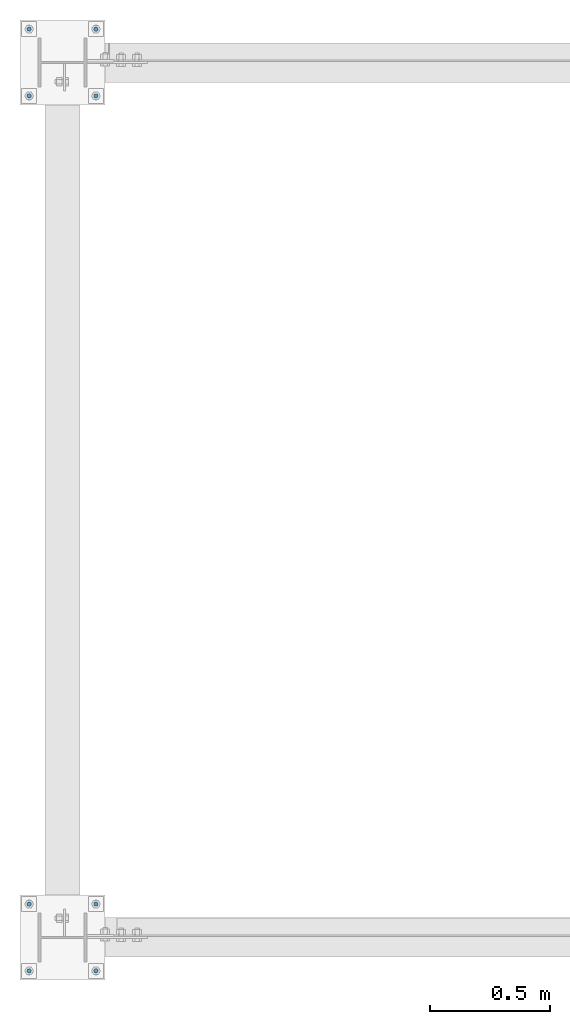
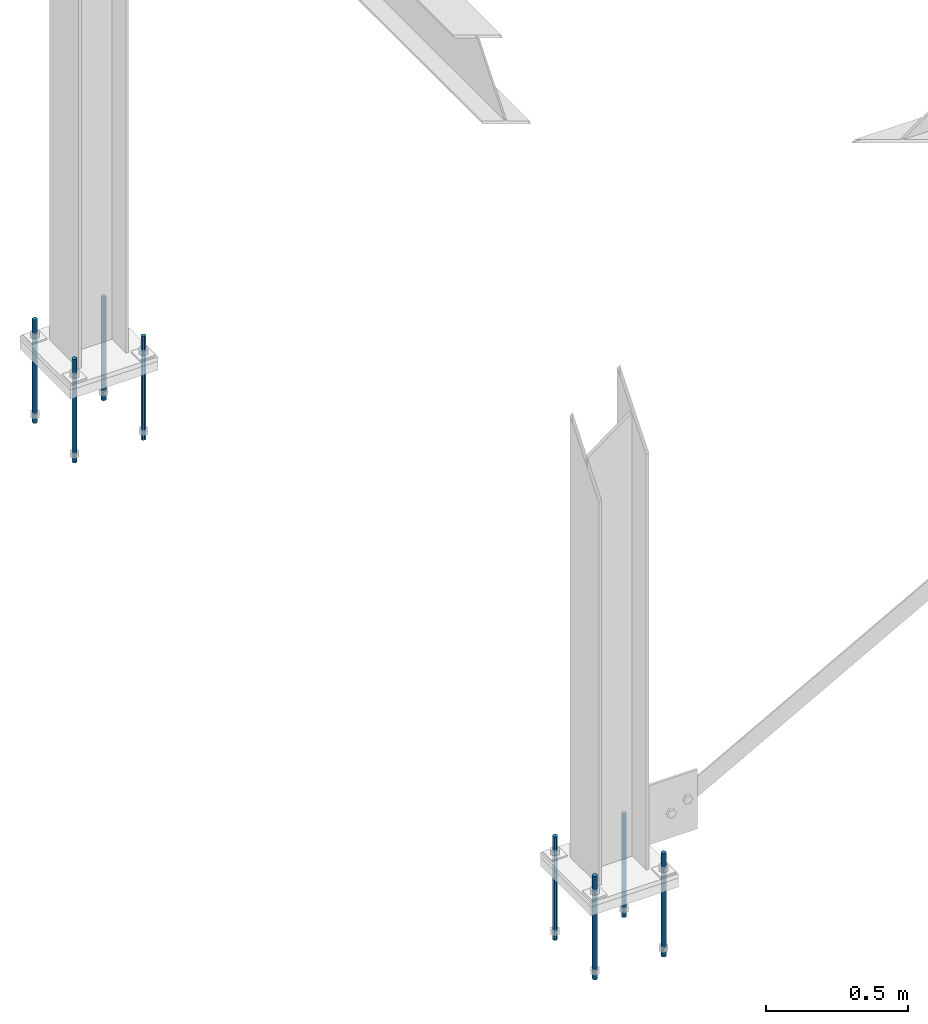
# One storey, part 2 of 5: 8 columns.
"""IFC4 building model written with IfcOpenShell, lengths in millimetres."""

from ifc_helpers import new_model, si_unit, direction, frame, origin_with_axes, place, context, subcontext, project, spatial, line, indexed_curve, outline, extrude, material, element, save


model = new_model("IFC4")

# Units and contexts
model_context = context("Model", 3, precision=0.2, world=origin_with_axes(), true_north=direction((0.0, 1.0)))
body_context = subcontext(model_context, "Body", "Model", "MODEL_VIEW")
ifc_project = project(units=[si_unit("LENGTHUNIT", "METRE", prefix="MILLI"), si_unit("AREAUNIT", "SQUARE_METRE"), si_unit("VOLUMEUNIT", "CUBIC_METRE"), si_unit("MASSUNIT", "GRAM", prefix="KILO"), si_unit("TIMEUNIT", "SECOND"), si_unit("PLANEANGLEUNIT", "RADIAN"), si_unit("SOLIDANGLEUNIT", "STERADIAN"), si_unit("THERMODYNAMICTEMPERATUREUNIT", "DEGREE_CELSIUS"), si_unit("LUMINOUSINTENSITYUNIT", "LUMEN")], contexts=[model_context])

# Site, building, storey
site_placement = place(None, origin_with_axes())
site = spatial("IfcSite", under=ifc_project, at=site_placement, Name="Unknown", CompositionType="ELEMENT")
building_placement = place(site_placement, origin_with_axes())
building = spatial("IfcBuilding", under=site, at=building_placement, Name="Unknown", CompositionType="ELEMENT")
storey_placement = place(building_placement, origin_with_axes())
storey = spatial("IfcBuildingStorey", under=building, at=storey_placement, Name="Unknown", CompositionType="ELEMENT", Elevation=0.0)

# Columns
ifc_material = material(Name="F1554-36", Category="STEEL")
for number, where, z_axis, x_axis, name in (
    (1, (-139.7, -139.7, -304.8), (-1.0, 0.0, 0.0), (0.0, 0.0, 1.0), "ANCHOR ROD"),
    (2, (-139.7, 139.7, -304.8), (-1.0, 0.0, 0.0), (0.0, 0.0, 1.0), "ANCHOR ROD"),
    (3, (139.7, -139.7, -304.8), (-1.0, 0.0, 0.0), (0.0, 0.0, 1.0), "ANCHOR ROD"),
    (4, (139.7, 139.7, -304.8), (-1.0, 0.0, 0.0), (0.0, 0.0, 1.0), "ANCHOR ROD"),
    (5, (-139.7, 3517.9, -304.8), (-1.0, 0.0, 0.0), (0.0, 0.0, 1.0), "ANCHOR ROD"),
    (6, (-139.7, 3797.3, -304.8), (-1.0, 0.0, 0.0), (0.0, 0.0, 1.0), "ANCHOR ROD"),
    (7, (139.7, 3517.9, -304.8), (-1.0, 0.0, 0.0), (0.0, 0.0, 1.0), "ANCHOR ROD"),
    (8, (139.7, 3797.3, -304.8), (-1.0, 0.0, 0.0), (0.0, 0.0, 1.0), "ANCHOR ROD"),
):
    element("IfcColumn", number, at=place(storey_placement, frame(where, z_axis=z_axis, x_axis=x_axis)), inside=storey, material=ifc_material, Name=name, PredefinedType="NOTDEFINED", context=body_context, shape_type="SolidModel", body=[
        extrude(outline(indexed_curve([(9.525, 0.0), (6.73519, 6.73519), (0.0, 9.525), (-6.73519, 6.73519), (-9.525, 0.0), (-6.73519, -6.73519), (0.0, -9.525), (6.73519, -6.73519)], segments=[line(1, 2, 3, 4, 5, 6, 7, 8, 1)])), frame((0.0, 0.0, 0.0), z_axis=(-1.0, 0.0, 0.0), x_axis=(0.0, 0.0, 1.0)), (0.0, 0.0, -1.0), 444.5),
    ])

save(model, "model.ifc")
